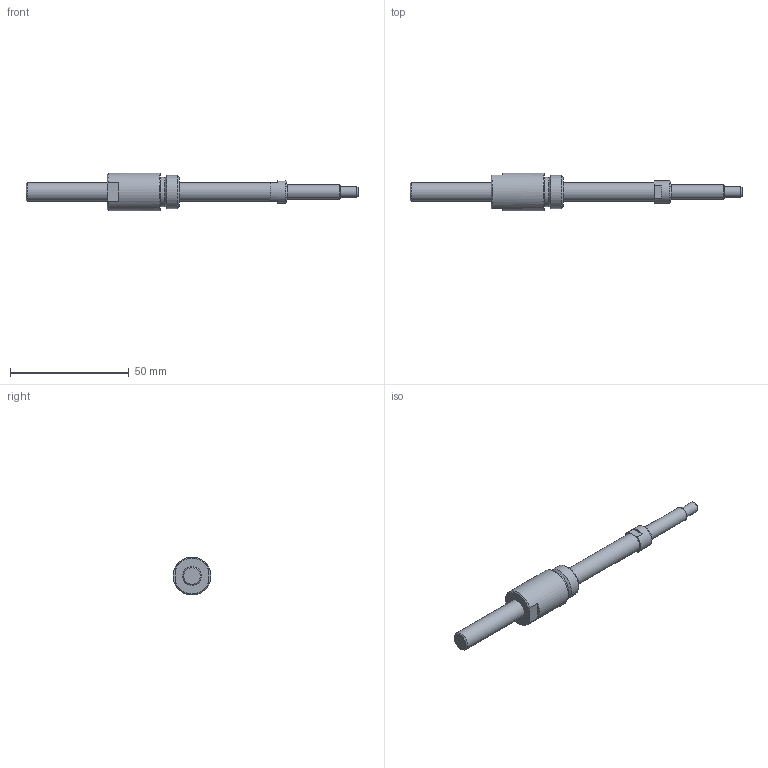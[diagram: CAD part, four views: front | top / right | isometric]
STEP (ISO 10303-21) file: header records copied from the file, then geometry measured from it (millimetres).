
FILE_DESCRIPTION(/* description */ ('STEP AP214'),/* implementation_level */ '2;1');
FILE_NAME(/* name */ 'NSG0805-099R140C5A0X(34.2)',/* time_stamp */ '2026-08-20T15:48:06+02:00',/* author */ ('License CC BY-ND 4.0'),/* organization */ ('CADENAS'),/* preprocessor_version */ 'ST-DEVELOPER v20',/* originating_system */ 'PARTsolutions',/* authorisation */ ' ');
FILE_SCHEMA (('AUTOMOTIVE_DESIGN {1 0 10303 214 3 1 1}'));
Length unit declared in the file: millimetre
Products named in the file (3): NSG0805-099R140C5A0X(34.2); NSG0805-99R140C3A_shaft; NSG0805_nut
Assembly tree (2 placements, depth 2):
  NSG0805-099R140C5A0X(34.2)
    NSG0805-99R140C3A_shaft
    NSG0805_nut
Bounding box: 140 x 16 x 16 mm (x, y, z)
Volume: 10475.9 mm3; surface area: 5983.5 mm2
Topology: 2 solids, 2 shells, 35 faces, 72 edges, 44 vertices
Faces by surface type: plane 17, cone 9, cylinder 8, torus 1
Full cylindrical faces by diameter (mm): 4.5 x1, 6 x1, 8 x2, 9.5 x1, 12.4 x1, 14 x1, 16 x1
Entity records: 907 total; most frequent: DIRECTION 158, CARTESIAN_POINT 146, ORIENTED_EDGE 108, AXIS2_PLACEMENT_3D 70, EDGE_LOOP 56, FACE_BOUND 56, EDGE_CURVE 54, VERTEX_POINT 42
